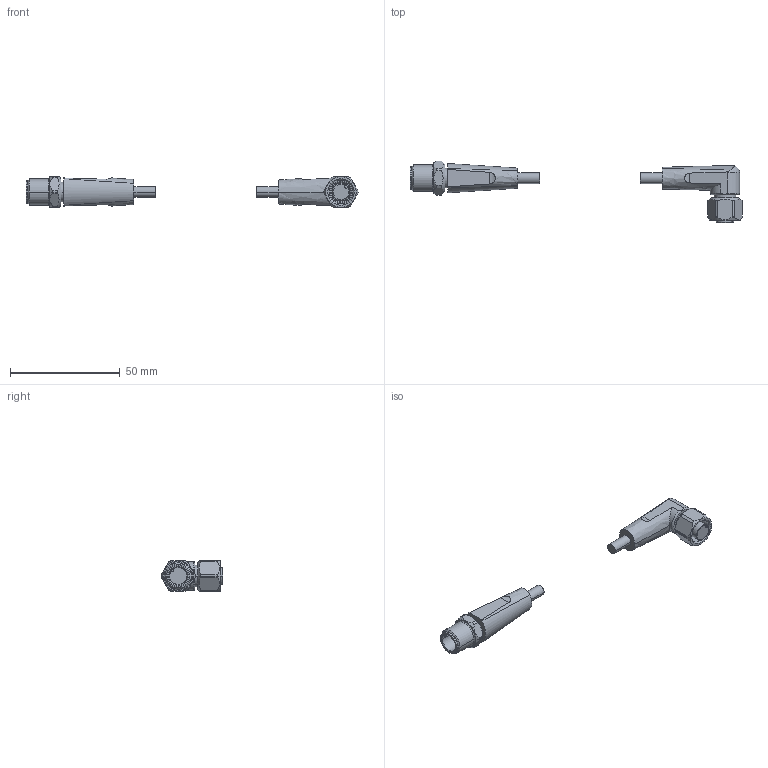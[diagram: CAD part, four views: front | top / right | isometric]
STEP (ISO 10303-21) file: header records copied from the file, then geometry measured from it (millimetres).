
FILE_DESCRIPTION( ( '' ), '1' );
FILE_NAME( '//expscmdclustefs.cadenas.external/client_exchange/iodir/jobs/output/wkb55265616_no0/STEP/EVT028_2_03.stp', '2013-03-07T08:48:05', ( '' ), ( '' ), ' ', ' ', ' ' );
FILE_SCHEMA( ( 'CONFIG_CONTROL_DESIGN' ) );
Length unit declared in the file: millimetre
Products named in the file (2): 1; 2
Bounding box: 151.25 x 28.1 x 14 mm (x, y, z)
Volume: 11130.6 mm3; surface area: 5630.5 mm2
Topology: 2 solids, 2 shells, 157 faces, 416 edges, 276 vertices
Faces by surface type: cylinder 49, torus 44, plane 41, cone 16, bspline 7
Entity records: 5854 total; most frequent: CARTESIAN_POINT 1916, ORIENTED_EDGE 832, DIRECTION 817, EDGE_CURVE 416, AXIS2_PLACEMENT_3D 358, VERTEX_POINT 276, CIRCLE 206, EDGE_LOOP 170
